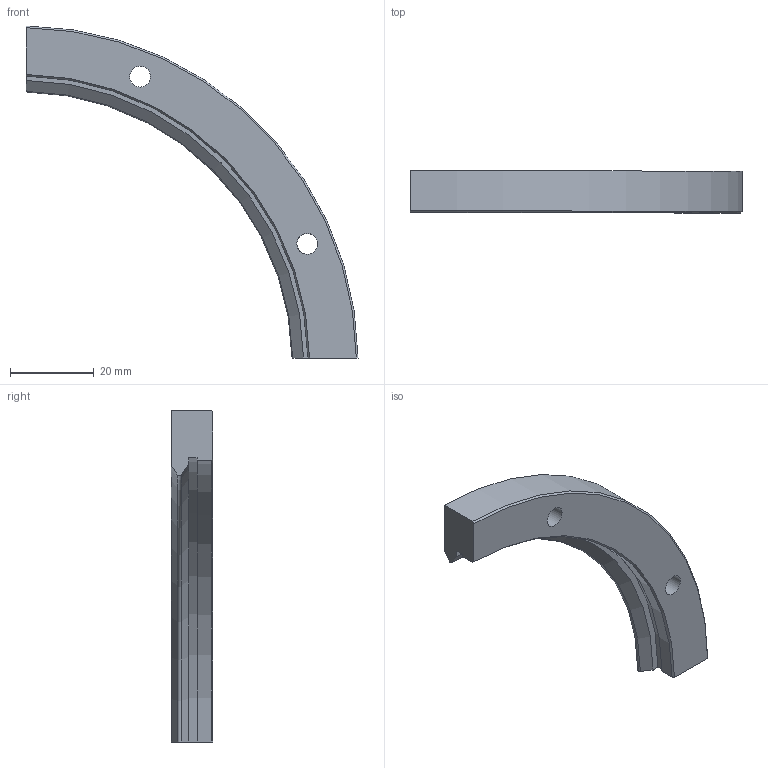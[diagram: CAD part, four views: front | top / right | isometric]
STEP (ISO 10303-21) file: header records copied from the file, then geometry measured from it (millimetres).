
FILE_DESCRIPTION(('STEP AP203'),'1');
FILE_NAME('RIV 161 R90.stp','2022-07-19T05:00:48',(' '),(' '),'Spatial InterOp 3D',' ',' ');
FILE_SCHEMA(('CONFIG_CONTROL_DESIGN'));
Length unit declared in the file: millimetre
Products named in the file (1): RIV 161 R90
Bounding box: 79.49 x 10 x 79.49 mm (x, y, z)
Volume: 14158 mm3; surface area: 6209.8 mm2
Topology: 1 solids, 1 shells, 20 faces, 50 edges, 34 vertices
Faces by surface type: plane 8, cylinder 7, cone 4, torus 1
Full cylindrical faces by diameter (mm): 5 x2, 8 x2
Entity records: 662 total; most frequent: CARTESIAN_POINT 137, DIRECTION 96, ORIENTED_EDGE 88, EDGE_CURVE 44, AXIS2_PLACEMENT_3D 41, VERTEX_POINT 32, EDGE_LOOP 30, FACE_OUTER_BOUND 24
